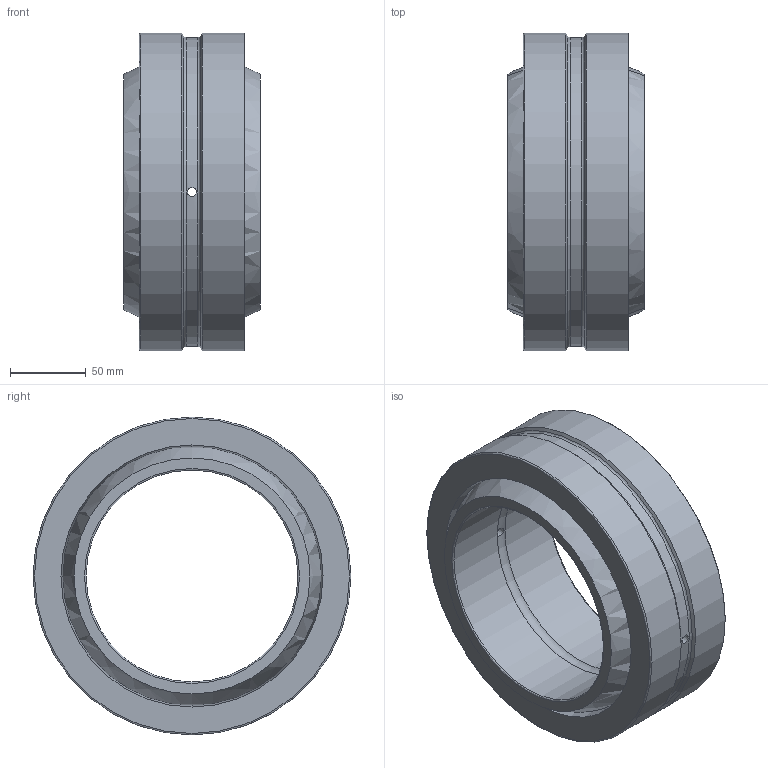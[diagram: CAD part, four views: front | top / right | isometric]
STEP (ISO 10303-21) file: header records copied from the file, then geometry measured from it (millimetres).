
FILE_DESCRIPTION(/* description */ (''),/* implementation_level */ '2;1');
FILE_NAME(/* name */ 'D:\moje\parametrické\GE--\GE--_\GE140E.stp',/* time_stamp */ '2016-08-17T14:02:16+02:00',/* author */ ('OUBALASKO'),/* organization */ (''),/* preprocessor_version */ 'ST-DEVELOPER v15.6',/* originating_system */ 'Autodesk Inventor 2015',/* authorisation */ '');
FILE_SCHEMA (('AUTOMOTIVE_DESIGN { 1 0 10303 214 3 1 1 }'));
Length unit declared in the file: millimetre
Products named in the file (3): GE140E-02; GE140E-01; GE140E
Assembly tree (2 placements, depth 2):
  GE140E
    GE140E-02
    GE140E-01
Bounding box: 90 x 210 x 210 mm (x, y, z)
Volume: 1406348.9 mm3; surface area: 207706.1 mm2
Topology: 2 solids, 2 shells, 28 faces, 66 edges, 41 vertices
Faces by surface type: torus 10, cylinder 9, plane 4, sphere 3, cone 2
Full cylindrical faces by diameter (mm): 6 x4, 140 x2, 204 x1, 210 x2
Entity records: 889 total; most frequent: CARTESIAN_POINT 311, DIRECTION 118, EDGE_LOOP 64, ORIENTED_EDGE 64, AXIS2_PLACEMENT_3D 59, FACE_BOUND 37, VERTEX_POINT 32, EDGE_CURVE 32
